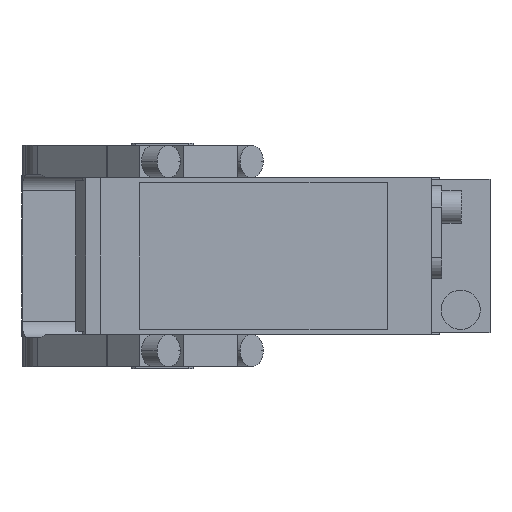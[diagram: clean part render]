
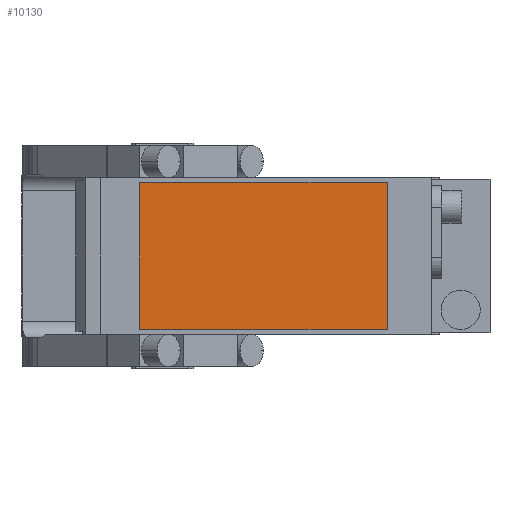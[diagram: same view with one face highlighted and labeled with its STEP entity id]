
A CAD part, front view. The second image highlights one B-rep face of the part: STEP entity #10130.
In plain terms, the highlighted planar face has unit normal (0, -1, 0).
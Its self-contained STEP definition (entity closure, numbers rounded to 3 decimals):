
#1 = VECTOR ( 'NONE', #4932, 1000. ) ;
#339 = EDGE_CURVE ( 'NONE', #3464, #2494, #7885, .T. ) ;
#566 = ORIENTED_EDGE ( 'NONE', *, *, #339, .T. ) ;
#574 = CARTESIAN_POINT ( 'NONE',  ( 0., -280.5, 0. ) ) ;
#684 = VERTEX_POINT ( 'NONE', #12190 ) ;
#709 = CARTESIAN_POINT ( 'NONE',  ( 69., -280.5, 22.5 ) ) ;
#1333 = LINE ( 'NONE', #5525, #12430 ) ;
#1774 = VECTOR ( 'NONE', #10395, 1000. ) ;
#2127 = CARTESIAN_POINT ( 'NONE',  ( 69., -280.5, -22.5 ) ) ;
#2471 = EDGE_CURVE ( 'NONE', #684, #9519, #1333, .T. ) ;
#2494 = VERTEX_POINT ( 'NONE', #4456 ) ;
#2932 = LINE ( 'NONE', #3856, #3768 ) ;
#3464 = VERTEX_POINT ( 'NONE', #10970 ) ;
#3767 = DIRECTION ( 'NONE',  ( 0., -1., 0. ) ) ;
#3768 = VECTOR ( 'NONE', #6285, 1000. ) ;
#3856 = CARTESIAN_POINT ( 'NONE',  ( -7., -280.5, 22.5 ) ) ;
#4456 = CARTESIAN_POINT ( 'NONE',  ( -7., -280.5, 22.5 ) ) ;
#4657 = ORIENTED_EDGE ( 'NONE', *, *, #10855, .T. ) ;
#4932 = DIRECTION ( 'NONE',  ( -1., 0., 0. ) ) ;
#5525 = CARTESIAN_POINT ( 'NONE',  ( -7., -280.5, -22.5 ) ) ;
#5585 = AXIS2_PLACEMENT_3D ( 'NONE', #574, #3767, #12357 ) ;
#6123 = ORIENTED_EDGE ( 'NONE', *, *, #2471, .T. ) ;
#6285 = DIRECTION ( 'NONE',  ( 0., 0., -1. ) ) ;
#6518 = DIRECTION ( 'NONE',  ( 1., 0., 0. ) ) ;
#7193 = PLANE ( 'NONE',  #5585 ) ;
#7885 = LINE ( 'NONE', #8162, #1 ) ;
#8162 = CARTESIAN_POINT ( 'NONE',  ( -7., -280.5, 22.5 ) ) ;
#9075 = EDGE_CURVE ( 'NONE', #9519, #3464, #10593, .T. ) ;
#9293 = FACE_OUTER_BOUND ( 'NONE', #12671, .T. ) ;
#9519 = VERTEX_POINT ( 'NONE', #2127 ) ;
#10130 = ADVANCED_FACE ( 'NONE', ( #9293 ), #7193, .T. ) ;
#10395 = DIRECTION ( 'NONE',  ( 0., 0., 1. ) ) ;
#10593 = LINE ( 'NONE', #709, #1774 ) ;
#10855 = EDGE_CURVE ( 'NONE', #2494, #684, #2932, .T. ) ;
#10970 = CARTESIAN_POINT ( 'NONE',  ( 69., -280.5, 22.5 ) ) ;
#12190 = CARTESIAN_POINT ( 'NONE',  ( -7., -280.5, -22.5 ) ) ;
#12357 = DIRECTION ( 'NONE',  ( 0., 0., -1. ) ) ;
#12430 = VECTOR ( 'NONE', #6518, 1000. ) ;
#12671 = EDGE_LOOP ( 'NONE', ( #4657, #6123, #13705, #566 ) ) ;
#13705 = ORIENTED_EDGE ( 'NONE', *, *, #9075, .T. ) ;
